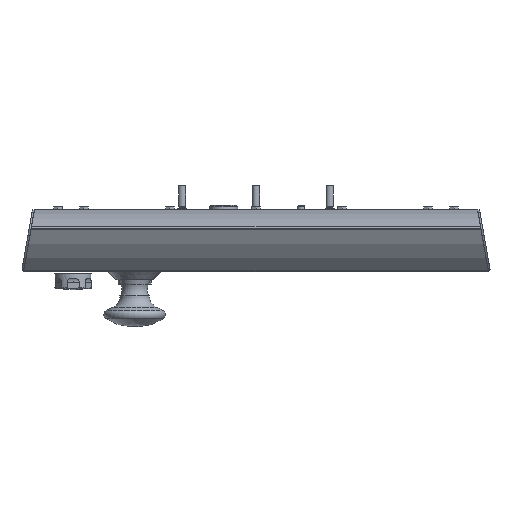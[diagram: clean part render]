
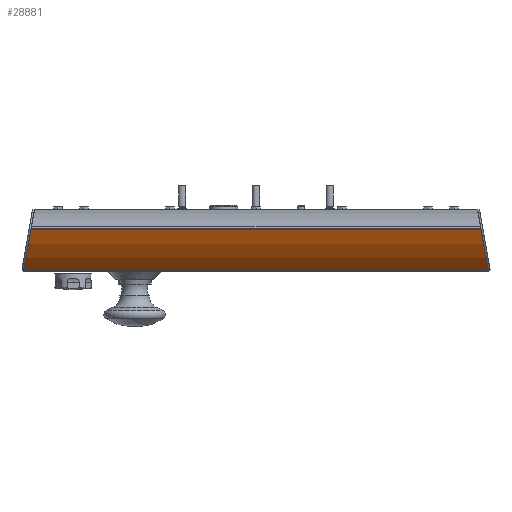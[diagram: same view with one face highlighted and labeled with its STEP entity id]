
A CAD part, front view. The second image highlights one B-rep face of the part: STEP entity #28881.
In plain terms, the highlighted cylindrical face has radius 95 mm (diameter 190 mm), a partial arc.
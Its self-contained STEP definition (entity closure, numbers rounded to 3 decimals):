
#28492=CARTESIAN_POINT('',(243.686,-578.11,2.945));
#28493=VERTEX_POINT('',#28492);
#28501=CARTESIAN_POINT('',(249.668,-554.312,-30.983));
#28502=VERTEX_POINT('',#28501);
#28503=CARTESIAN_POINT('',(237.29,-490.309,39.221));
#28504=DIRECTION('',(-0.985,0.0,-0.174));
#28505=DIRECTION('',(0.174,0.,-0.985));
#28506=AXIS2_PLACEMENT_3D('',#28503,#28504,#28505);
#28507=ELLIPSE('',#28506,96.466,95.);
#28508=EDGE_CURVE('',#28502,#28493,#28507,.T.);
#28838=CARTESIAN_POINT('',(-128.28,-554.312,-30.983));
#28839=VERTEX_POINT('',#28838);
#28840=CARTESIAN_POINT('',(249.668,-554.312,-30.983));
#28841=DIRECTION('',(-1.0,0.0,0.0));
#28842=VECTOR('',#28841,377.949);
#28843=LINE('',#28840,#28842);
#28844=EDGE_CURVE('',#28502,#28839,#28843,.T.);
#28857=CARTESIAN_POINT('',(249.76,-490.309,39.221));
#28858=DIRECTION('',(1.0,0.0,0.0));
#28859=DIRECTION('',(0.0,-0.674,-0.739));
#28860=AXIS2_PLACEMENT_3D('',#28857,#28858,#28859);
#28861=CYLINDRICAL_SURFACE('',#28860,95.);
#28862=ORIENTED_EDGE('',*,*,#28508,.T.);
#28863=CARTESIAN_POINT('',(-122.298,-578.11,2.945));
#28864=VERTEX_POINT('',#28863);
#28865=CARTESIAN_POINT('',(243.686,-578.11,2.945));
#28866=DIRECTION('',(-1.0,0.0,0.0));
#28867=VECTOR('',#28866,365.984);
#28868=LINE('',#28865,#28867);
#28869=EDGE_CURVE('',#28493,#28864,#28868,.T.);
#28870=ORIENTED_EDGE('',*,*,#28869,.T.);
#28871=CARTESIAN_POINT('',(-115.902,-490.309,39.221));
#28872=DIRECTION('',(0.985,0.0,-0.174));
#28873=DIRECTION('',(-0.174,0.,-0.985));
#28874=AXIS2_PLACEMENT_3D('',#28871,#28872,#28873);
#28875=ELLIPSE('',#28874,96.466,95.);
#28876=EDGE_CURVE('',#28864,#28839,#28875,.T.);
#28877=ORIENTED_EDGE('',*,*,#28876,.T.);
#28878=ORIENTED_EDGE('',*,*,#28844,.F.);
#28879=EDGE_LOOP('',(#28862,#28870,#28877,#28878));
#28880=FACE_OUTER_BOUND('',#28879,.T.);
#28881=ADVANCED_FACE('',(#28880),#28861,.T.);
